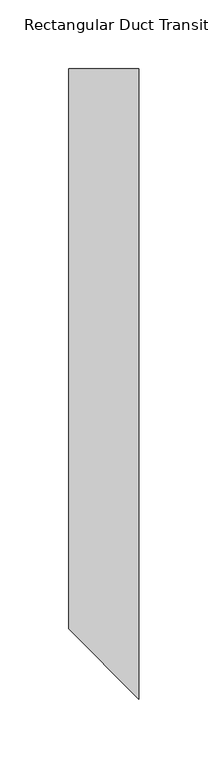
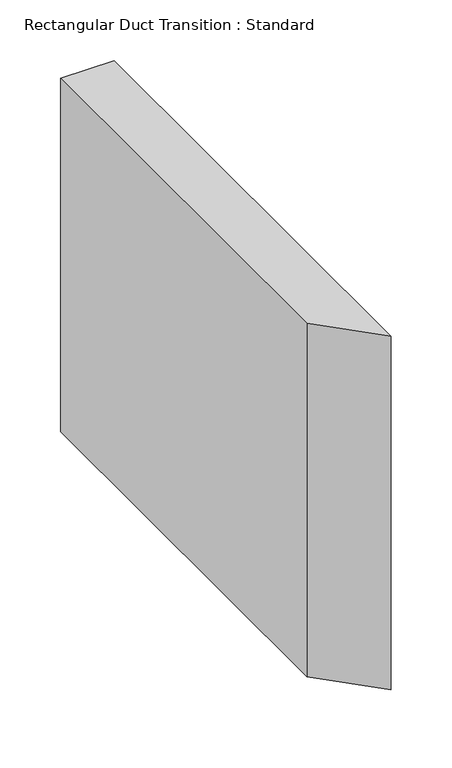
"""IFC4 building model written with IfcOpenShell, lengths in millimetres: duct fitting geometry, Rectangular Duct Transition : Standard."""

from ifc_helpers import new_model, si_unit, frame, origin, place, context, project, spatial, polyline, outline, extrude, source, transform, mapped, element, save


def rectangular_duct_transition_standard_567f2710(model_context):
    return source(origin(), model_context, "Body", "SweptSolid", [
        extrude(outline(polyline([(0.0, -203.2), (0.0, 203.2), (50.8, 203.2), (50.8, -254.0), (0.0, -203.2)])), frame((0.0, 0.0, -177.8), z_axis=(0.0, 0.0, 1.0), x_axis=(1.0, 0.0, 0.0)), (0.0, 0.0, 1.0), 355.6),
        extrude(outline(polyline([(0.0, -203.2), (0.0, 203.2), (50.8, 203.2), (50.8, -254.0), (0.0, -203.2)])), frame((0.0, 0.0, -177.8), z_axis=(0.0, 0.0, 1.0), x_axis=(1.0, 0.0, 0.0)), (0.0, 0.0, 1.0), 355.6),
        extrude(outline(polyline([(0.0, -203.2), (0.0, 203.2), (50.8, 203.2), (50.8, -254.0), (0.0, -203.2)])), frame((0.0, 0.0, -177.8), z_axis=(0.0, 0.0, 1.0), x_axis=(1.0, 0.0, 0.0)), (0.0, 0.0, 1.0), 355.6),
    ])


if __name__ == "__main__":
    model = new_model("IFC4")
    model_context = context("Model", 3, world=origin())
    ifc_project = project(units=[si_unit("LENGTHUNIT", "METRE", prefix="MILLI")], contexts=[model_context])
    site = spatial("IfcSite", under=ifc_project)
    building = spatial("IfcBuilding", under=site)
    placement = place(None, origin())
    rectangular_duct_transition_standard_shape = rectangular_duct_transition_standard_567f2710(model_context)
    element("IfcDuctFitting", 1, ObjectType="Rectangular Duct Transition : Standard", at=placement, inside=building, context=model_context, shape_type="MappedRepresentation", body=[
        mapped(rectangular_duct_transition_standard_shape, transform((0.0, 0.0, 0.0), x_axis=(1.0, 0.0, 0.0), y_axis=(0.0, 1.0, 0.0), z_axis=(0.0, 0.0, 1.0))),
    ])
    save(model, "model.ifc")
